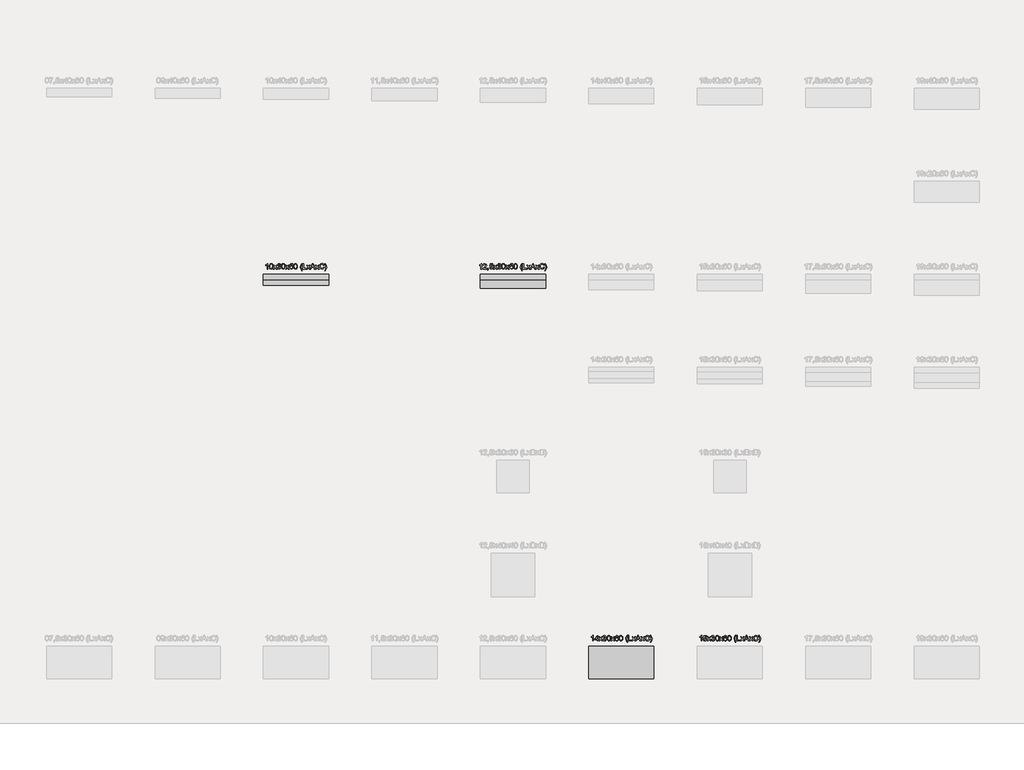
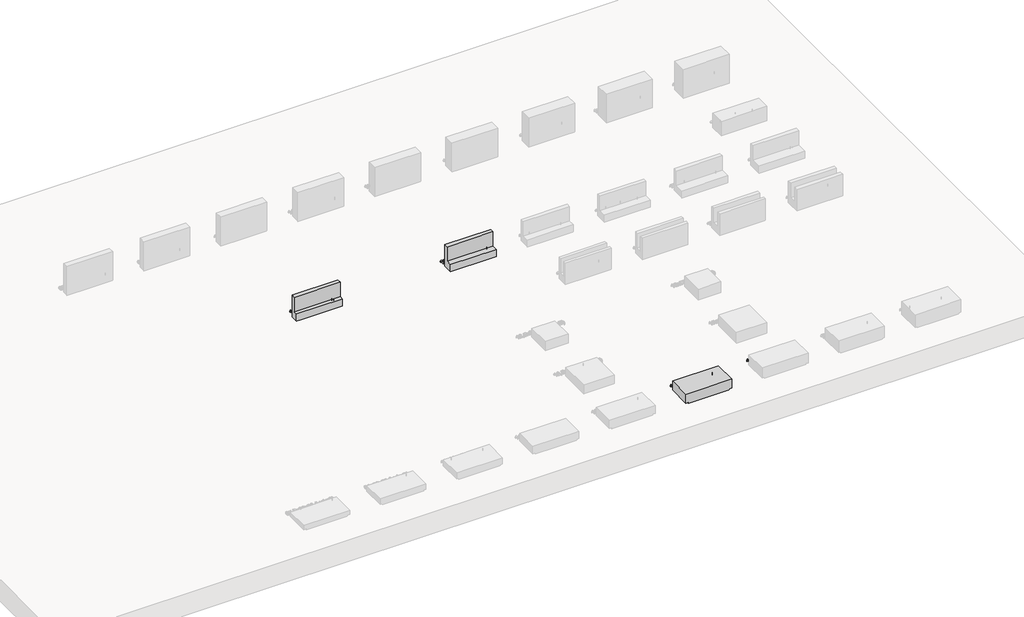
# One storey, part 6 of 26: 7 proxies.
"""IFC4 building model written with IfcOpenShell, lengths in millimetres."""

import ifcopenshell
import ifcopenshell.guid

model = None  # the IFC model being written
_history = None  # IfcOwnerHistory: only IFC2X3 demands one
_inside = {}  # id of a spatial element -> (the spatial element, [elements in it])
_under = {}  # id of a project, library or spatial element -> (it, [spatial elements below it])
_declared = {}  # id of a project -> (the project, [libraries it declares])
_typed = {}  # id of a type object -> (the type object, [elements of that type])
_made_of = {}  # id of a material, layer set ... -> (it, [elements and type objects made of it])


def new_model(schema):
    """Start an empty IFC model of exactly this schema.

    Asked for "IFC4X3", IfcOpenShell would pick the latest addendum, in which some entities
    have other attributes; the version numbers below select the first issue.
    IFC2X3 requires an IfcOwnerHistory on every rooted entity: one is made here for all.
    """
    global model, _history
    if schema == "IFC4X3":
        model = ifcopenshell.file(schema_version=(4, 3, 0, 0))
    else:
        model = ifcopenshell.file(schema=schema)
    _inside.clear()
    _under.clear()
    _declared.clear()
    _typed.clear()
    _made_of.clear()
    _history = None
    if model.schema == "IFC2X3":
        org = make("IfcOrganization", Name="unknown")
        user = make(
            "IfcPersonAndOrganization",
            ThePerson=make("IfcPerson", FamilyName="unknown"),
            TheOrganization=org,
        )
        app = make(
            "IfcApplication",
            ApplicationDeveloper=org,
            Version="unknown",
            ApplicationFullName="unknown",
            ApplicationIdentifier="unknown",
        )
        _history = make(
            "IfcOwnerHistory",
            OwningUser=user,
            OwningApplication=app,
            ChangeAction="ADDED",
            CreationDate=0,
        )
    return model


def make(cls, **values):
    """One entity of the class cls with the attributes given. An attribute that is None is left unset."""
    return model.create_entity(
        cls, **{name: value for name, value in values.items() if value is not None}
    )


def rooted(cls, **values):
    """An entity with a GlobalId (a new one), such as an element, a storey or a relation."""
    return make(cls, GlobalId=ifcopenshell.guid.new(), OwnerHistory=_history, **values)


def si_unit(unit_type, name, prefix=None):
    """IfcSIUnit, for example si_unit("LENGTHUNIT", "METRE", prefix="MILLI")."""
    return make("IfcSIUnit", UnitType=unit_type, Prefix=prefix, Name=name)


def assignment(units):
    """IfcUnitAssignment: the units of a project."""
    return None if units is None else make("IfcUnitAssignment", Units=units)


def point(xyz):
    """IfcCartesianPoint."""
    return None if xyz is None else make("IfcCartesianPoint", Coordinates=xyz)


def direction(xyz):
    """IfcDirection."""
    return None if xyz is None else make("IfcDirection", DirectionRatios=xyz)


def frame(location, z_axis=None, x_axis=None):
    """IfcAxis2Placement3D, a coordinate frame: its origin and axes. An axis left out is left unset."""
    return make(
        "IfcAxis2Placement3D",
        Location=point(location),
        Axis=direction(z_axis),
        RefDirection=direction(x_axis),
    )


def origin():
    """The frame at (0, 0, 0) with its axes left unset."""
    return frame((0.0, 0.0, 0.0))


def origin_with_axes():
    """The frame at (0, 0, 0) with the z axis (0, 0, 1) and the x axis (1, 0, 0) written out."""
    return frame((0.0, 0.0, 0.0), z_axis=(0.0, 0.0, 1.0), x_axis=(1.0, 0.0, 0.0))


def place(relative_to, where):
    """IfcLocalPlacement: puts the frame where relative to a parent placement (None: the world)."""
    return make(
        "IfcLocalPlacement", PlacementRelTo=relative_to, RelativePlacement=where
    )


def context(
    kind, dimensions, precision=None, world=None, true_north=None, identifier=None
):
    """IfcGeometricRepresentationContext, for example the 3D "Model" context."""
    return make(
        "IfcGeometricRepresentationContext",
        ContextIdentifier=identifier,
        ContextType=kind,
        CoordinateSpaceDimension=dimensions,
        Precision=precision,
        WorldCoordinateSystem=world,
        TrueNorth=true_north,
    )


def project(units=None, contexts=None):
    """IfcProject with its units and contexts."""
    return rooted(
        "IfcProject",
        Name="project",
        RepresentationContexts=contexts,
        UnitsInContext=assignment(units),
    )


def spatial(cls, under=None, at=None, **own):
    """A site, building, storey or space (cls), placed at a placement, below another one or the project."""
    s = rooted(cls, ObjectPlacement=at, **own)
    if under is not None:
        _under.setdefault(under.id(), (under, []))[1].append(s)
    return s


def polyline(points):
    """IfcPolyline through the points."""
    return make("IfcPolyline", Points=[point(p) for p in points])


def outline(outer, holes=None, kind="AREA"):
    """IfcArbitraryClosedProfileDef: a profile drawn as a closed curve; with holes, ...WithVoids."""
    if holes is None:
        return make("IfcArbitraryClosedProfileDef", ProfileType=kind, OuterCurve=outer)
    return make(
        "IfcArbitraryProfileDefWithVoids",
        ProfileType=kind,
        OuterCurve=outer,
        InnerCurves=holes,
    )


def extrude(swept, where, along, depth):
    """IfcExtrudedAreaSolid: the profile swept, set in the frame where, extruded along a direction by depth."""
    return make(
        "IfcExtrudedAreaSolid",
        SweptArea=swept,
        Position=where,
        ExtrudedDirection=direction(along),
        Depth=depth,
    )


def shape(context_of_items, identifier, shape_type, items):
    """IfcShapeRepresentation: the items that make up one representation, for example the "Body"."""
    return make(
        "IfcShapeRepresentation",
        ContextOfItems=context_of_items,
        RepresentationIdentifier=identifier,
        RepresentationType=shape_type,
        Items=items,
    )


def source(mapping_origin, context_of_items, identifier, shape_type, items):
    """IfcRepresentationMap: a shape defined once, which mapped items show again and again."""
    return make(
        "IfcRepresentationMap",
        MappingOrigin=mapping_origin,
        MappedRepresentation=shape(context_of_items, identifier, shape_type, items),
    )


def transform(
    local_origin,
    x_axis=None,
    y_axis=None,
    z_axis=None,
    scale=None,
    scale2=None,
    scale3=None,
    uniform=True,
):
    """IfcCartesianTransformationOperator3D, or its non-uniform kind. x_axis, y_axis, z_axis: its Axis1, 2, 3."""
    if uniform:
        return make(
            "IfcCartesianTransformationOperator3D",
            Axis1=direction(x_axis),
            Axis2=direction(y_axis),
            LocalOrigin=point(local_origin),
            Scale=scale,
            Axis3=direction(z_axis),
        )
    return make(
        "IfcCartesianTransformationOperator3DnonUniform",
        Axis1=direction(x_axis),
        Axis2=direction(y_axis),
        LocalOrigin=point(local_origin),
        Scale=scale,
        Axis3=direction(z_axis),
        Scale2=scale2,
        Scale3=scale3,
    )


def mapped(mapping_source, mapping_target):
    """IfcMappedItem: shows the shape of a source again, moved by a transform."""
    return make(
        "IfcMappedItem", MappingSource=mapping_source, MappingTarget=mapping_target
    )


def made_of(thing, what):
    """Note that an element or type object is made of a material, layer set ...; save() writes the relation."""
    if what is not None:
        _made_of.setdefault(what.id(), (what, []))[1].append(thing)
    return thing


def element(
    cls,
    number,
    at=None,
    inside=None,
    cuts=None,
    type_object=None,
    material=None,
    context=None,
    identifier="Body",
    shape_type=None,
    held_by="IfcProductDefinitionShape",
    body=None,
    shapes=None,
    **own,
):
    """One element of the class cls, such as IfcWall. Its Tag is "e" and its number.

    at: its placement. inside: the storey or other place that contains it. cuts: it is an
    opening in that element (IfcRelVoidsElement). A single representation is given by context,
    identifier, shape_type and body (its items); several are given by shapes. held_by: the class
    of the entity that holds the representations. save() writes the other relations.
    """
    e = rooted(cls, Tag="e%d" % number, ObjectPlacement=at, **own)
    if body is not None:
        shapes = [shape(context, identifier, shape_type, body)]
    if shapes is not None:
        e.Representation = make(held_by, Representations=shapes)
    if inside is not None:
        _inside.setdefault(inside.id(), (inside, []))[1].append(e)
    if cuts is not None:
        rooted(
            "IfcRelVoidsElement", RelatingBuildingElement=cuts, RelatedOpeningElement=e
        )
    if type_object is not None:
        _typed.setdefault(type_object.id(), (type_object, []))[1].append(e)
    return made_of(e, material)


def aggregate(whole, parts):
    """IfcRelAggregates: a whole, such as a stair, and the parts it consists of."""
    return rooted("IfcRelAggregates", RelatingObject=whole, RelatedObjects=parts)


def save(model, path):
    """Write the relations noted so far, then the file.

    IfcRelAggregates (storeys below a building ...), IfcRelContainedInSpatialStructure (elements
    in a storey), IfcRelDefinesByType, IfcRelAssociatesMaterial and IfcRelDeclares: one each for
    every whole, place, type object, material and project.
    """
    for whole, parts in _under.values():
        aggregate(whole, parts)
    for where, things in _inside.values():
        rooted(
            "IfcRelContainedInSpatialStructure",
            RelatedElements=things,
            RelatingStructure=where,
        )
    for kind, things in _typed.values():
        rooted("IfcRelDefinesByType", RelatedObjects=things, RelatingType=kind)
    for what, things in _made_of.values():
        rooted("IfcRelAssociatesMaterial", RelatedObjects=things, RelatingMaterial=what)
    for by, libraries in _declared.values():
        rooted("IfcRelDeclares", RelatingContext=by, RelatedDefinitions=libraries)
    model.write(path)


def generic_models_2dec6f5c(model_context):
    return source(origin(), model_context, "Body", "SweptSolid", [
        extrude(outline(polyline([(62.5, 0.0), (-62.5, 0.0), (-62.5, 100.0), (12.5, 100.0), (12.5, 300.0), (62.5, 300.0), (62.5, 0.0)])), frame((-300.0, 0.0, 0.0), z_axis=(1.0, 0.0, 0.0), x_axis=(0.0, 1.0, 0.0)), (0.0, 0.0, 1.0), 600.0),
    ])


def generic_models_cf0e5051(model_context):
    return source(origin(), model_context, "Body", "SweptSolid", [
        extrude(outline(polyline([(50.0, 0.0), (-50.0, 0.0), (-50.0, 100.0), (0.0, 100.0), (0.0, 300.0), (50.0, 300.0), (50.0, 0.0)])), frame((-300.0, 0.0, 0.0), z_axis=(1.0, 0.0, 0.0), x_axis=(0.0, 1.0, 0.0)), (0.0, 0.0, 1.0), 600.0),
    ])


def generic_models_2375c835(model_context):
    return source(origin(), model_context, "Body", "SweptSolid", [
        extrude(outline(polyline([(140.0, 300.0), (140.0, -300.0), (15.0, -300.0), (15.0, -270.0), (0.0, -270.0), (0.0, 270.0), (15.0, 270.0), (15.0, 300.0), (140.0, 300.0)])), frame((0.0, -150.0, 0.0), z_axis=(0.0, 1.0, 0.0), x_axis=(0.0, 0.0, 1.0)), (0.0, 0.0, 1.0), 300.0),
    ])


model = new_model("IFC4")

# Units and contexts
model_context = context("Model", 3, world=origin())
ifc_project = project(units=[si_unit("LENGTHUNIT", "METRE", prefix="MILLI")], contexts=[model_context])

# Site, building, storey
site = spatial("IfcSite", under=ifc_project)
building = spatial("IfcBuilding", under=site)
storey = spatial("IfcBuildingStorey", under=building, Name="Catálogo Celucon", Elevation=0.0)

# Proxies
placement = place(None, origin())
element("IfcBuildingElementProxy", 1, Name="Dimensões", ObjectType="Dimensões", at=placement, inside=storey, context=model_context, shape_type="SweptSolid", body=[
    extrude(outline(polyline([(-10758.0265226, -1171.1045836), (-10764.305042, -1171.1045836), (-10764.305042, -1131.9619393), (-10770.2524676, -1136.1987136), (-10776.8620808, -1139.3686301), (-10776.8620808, -1133.4334673), (-10767.6588995, -1127.5596181), (-10762.0732246, -1120.8764285), (-10758.0265226, -1120.8764285), (-10758.0265226, -1171.1045836)])), origin_with_axes(), (0.0, 0.0, 1.0), 20.0),
    extrude(outline(polyline([(-10743.1150391, -1146.3951763), (-10741.2694977, -1131.9435452), (-10735.788056, -1123.611018), (-10726.6339257, -1120.8764285), (-10719.3008113, -1122.4951093), (-10714.2363025, -1127.1610793), (-10711.2932465, -1134.5922956), (-10710.1528123, -1146.3951763), (-10711.9799596, -1160.7854936), (-10717.4430072, -1169.1364149), (-10726.6339257, -1171.8893985), (-10738.1118439, -1167.1069326), (-10741.8642403, -1158.6119242), (-10743.1150391, -1146.3951763)]), holes=[polyline([(-10736.8365197, -1146.3829135), (-10733.8934637, -1161.9749788), (-10726.6339257, -1165.6108791), (-10719.3743877, -1161.962716), (-10716.4313317, -1146.3829135), (-10719.2762858, -1130.9686579), (-10726.7075021, -1127.1549479), (-10733.7953619, -1130.5149368), (-10736.8365197, -1146.3829135)])]), origin_with_axes(), (0.0, 0.0, 1.0), 20.0),
    extrude(outline(polyline([(-10707.0135526, -1171.1045836), (-10693.5981225, -1152.563331), (-10706.2287377, -1134.2182822), (-10698.6748941, -1134.2182822), (-10692.5803157, -1143.0474501), (-10689.7353616, -1147.2167794), (-10687.2705522, -1143.8077396), (-10680.3298452, -1134.2182822), (-10672.7760016, -1134.2182822), (-10686.0442789, -1152.563331), (-10673.2665109, -1171.1045836), (-10680.8203546, -1171.1045836), (-10688.5090883, -1159.9577591), (-10689.9193026, -1157.9221454), (-10699.459709, -1171.1045836), (-10707.0135526, -1171.1045836)])), origin_with_axes(), (0.0, 0.0, 1.0), 20.0),
    extrude(outline(polyline([(-10669.3424363, -1157.7627299), (-10663.0639169, -1156.977915), (-10659.5996948, -1163.5875282), (-10653.1188403, -1165.6108791), (-10645.4914203, -1162.8272387), (-10642.6587289, -1155.9355827), (-10645.4668948, -1149.4424654), (-10652.6038055, -1146.8734228), (-10657.0061267, -1147.5601359), (-10656.3071509, -1141.2816165), (-10648.1769589, -1139.5525711), (-10645.0131737, -1134.0098158), (-10647.3063048, -1129.0985911), (-10653.2169422, -1127.1549479), (-10659.201156, -1129.1169852), (-10662.279102, -1135.0030971), (-10668.5576214, -1134.2182822), (-10663.4195362, -1124.3713075), (-10653.4376714, -1120.8764285), (-10645.8654337, -1122.5993425), (-10640.5679329, -1127.3082321), (-10638.7346543, -1133.6419338), (-10640.4759624, -1139.4299438), (-10645.6263104, -1143.5870104), (-10638.7837052, -1147.878967), (-10636.3802095, -1156.0459473), (-10641.1872009, -1167.2786108), (-10653.3395695, -1171.8893985), (-10664.3515039, -1167.9530612), (-10669.3424363, -1157.7627299)])), origin_with_axes(), (0.0, 0.0, 1.0), 20.0),
    extrude(outline(polyline([(-10630.8865051, -1146.3951763), (-10629.0409637, -1131.9435452), (-10623.559522, -1123.611018), (-10614.4053917, -1120.8764285), (-10607.0722773, -1122.4951093), (-10602.0077685, -1127.1610793), (-10599.0647125, -1134.5922956), (-10597.9242783, -1146.3951763), (-10599.7514256, -1160.7854936), (-10605.2144732, -1169.1364149), (-10614.4053917, -1171.8893985), (-10625.8833099, -1167.1069326), (-10629.6357063, -1158.6119242), (-10630.8865051, -1146.3951763)]), holes=[polyline([(-10624.6079857, -1146.3829135), (-10621.6649297, -1161.9749788), (-10614.4053917, -1165.6108791), (-10607.1458537, -1161.962716), (-10604.2027977, -1146.3829135), (-10607.0477518, -1130.9686579), (-10614.4789681, -1127.1549479), (-10621.5668279, -1130.5149368), (-10624.6079857, -1146.3829135)])]), origin_with_axes(), (0.0, 0.0, 1.0), 20.0),
    extrude(outline(polyline([(-10594.7850186, -1171.1045836), (-10581.3695885, -1152.563331), (-10594.0002037, -1134.2182822), (-10586.4463601, -1134.2182822), (-10580.3517817, -1143.0474501), (-10577.5068276, -1147.2167794), (-10575.0420182, -1143.8077396), (-10568.1013112, -1134.2182822), (-10560.5474676, -1134.2182822), (-10573.8157449, -1152.563331), (-10561.0379769, -1171.1045836), (-10568.5918206, -1171.1045836), (-10576.2805543, -1159.9577591), (-10577.6907686, -1157.9221454), (-10587.231175, -1171.1045836), (-10594.7850186, -1171.1045836)])), origin_with_axes(), (0.0, 0.0, 1.0), 20.0),
    extrude(outline(polyline([(-10524.9364905, -1134.2182822), (-10531.2150099, -1135.0030971), (-10533.5939801, -1129.7669101), (-10539.8847622, -1127.1549479), (-10545.5501449, -1128.6755268), (-10549.8359702, -1134.3838291), (-10551.6201979, -1145.5735731), (-10546.0835738, -1140.5642466), (-10539.2225746, -1138.9271718), (-10528.5539968, -1143.4030694), (-10524.1516755, -1154.9668267), (-10526.2240775, -1163.6304477), (-10531.9262484, -1169.7618143), (-10540.1545423, -1171.8893985), (-10552.9507044, -1166.2485413), (-10556.661714, -1158.7805368), (-10557.8987172, -1147.6582378), (-10556.5252911, -1135.1533156), (-10552.4050128, -1126.6031249), (-10546.7794839, -1122.3081026), (-10539.4923547, -1120.8764285), (-10529.5718036, -1124.4203584), (-10524.9364905, -1134.2182822)]), holes=[polyline([(-10551.6201979, -1154.8687249), (-10550.167064, -1160.307247), (-10546.304303, -1164.2558471), (-10540.6450517, -1165.6108791), (-10533.2444922, -1162.8027132), (-10530.4301949, -1155.1752932), (-10533.207704, -1147.8728356), (-10540.9025691, -1145.2056911), (-10548.4993323, -1147.8728356), (-10551.6201979, -1154.8687249)])]), origin_with_axes(), (0.0, 0.0, 1.0), 20.0),
    extrude(outline(polyline([(-10518.6579711, -1146.3951763), (-10516.8124297, -1131.9435452), (-10511.330988, -1123.611018), (-10502.1768577, -1120.8764285), (-10494.8437433, -1122.4951093), (-10489.7792345, -1127.1610793), (-10486.8361785, -1134.5922956), (-10485.6957443, -1146.3951763), (-10487.5228916, -1160.7854936), (-10492.9859392, -1169.1364149), (-10502.1768577, -1171.8893985), (-10513.654776, -1167.1069326), (-10517.4071723, -1158.6119242), (-10518.6579711, -1146.3951763)]), holes=[polyline([(-10512.3794517, -1146.3829135), (-10509.4363957, -1161.9749788), (-10502.1768577, -1165.6108791), (-10494.9173197, -1161.962716), (-10491.9742637, -1146.3829135), (-10494.8192178, -1130.9686579), (-10502.2504341, -1127.1549479), (-10509.3382939, -1130.5149368), (-10512.3794517, -1146.3829135)])]), origin_with_axes(), (0.0, 0.0, 1.0), 20.0),
    extrude(outline(polyline([(-10446.4549982, -1185.2312522), (-10455.3700052, -1170.5037097), (-10459.0120369, -1153.0170522), (-10456.2897102, -1137.7499494), (-10446.4549982, -1120.8764285), (-10441.7461086, -1120.8764285), (-10447.6199578, -1130.8215051), (-10451.151625, -1140.4600134), (-10452.7335176, -1153.0538404), (-10449.9866653, -1169.1486777), (-10441.7461086, -1185.2312522), (-10446.4549982, -1185.2312522)])), origin_with_axes(), (0.0, 0.0, 1.0), 20.0),
    extrude(outline(polyline([(-10434.6827743, -1171.1045836), (-10434.6827743, -1120.8764285), (-10428.4042549, -1120.8764285), (-10428.4042549, -1164.8260642), (-10403.2901774, -1164.8260642), (-10403.2901774, -1171.1045836), (-10434.6827743, -1171.1045836)])), origin_with_axes(), (0.0, 0.0, 1.0), 20.0),
    extrude(outline(polyline([(-10366.7594953, -1171.1045836), (-10346.7099265, -1120.8764285), (-10341.3633749, -1120.8764285), (-10321.3138061, -1171.1045836), (-10327.9479448, -1171.1045836), (-10333.6991666, -1155.4082851), (-10354.3863975, -1155.4082851), (-10360.1253566, -1171.1045836), (-10366.7594953, -1171.1045836)]), holes=[polyline([(-10352.0810037, -1149.1297658), (-10335.9922977, -1149.1297658), (-10340.5172463, -1136.7811934), (-10344.0366507, -1127.1549479), (-10347.1636477, -1135.7020729), (-10352.0810037, -1149.1297658)])]), origin_with_axes(), (0.0, 0.0, 1.0), 20.0),
    extrude(outline(polyline([(-10400.9357326, -1171.1045836), (-10387.5203025, -1152.563331), (-10400.1509177, -1134.2182822), (-10392.5970741, -1134.2182822), (-10386.5024957, -1143.0474501), (-10383.6575416, -1147.2167794), (-10381.1927322, -1143.8077396), (-10374.2520252, -1134.2182822), (-10366.6981816, -1134.2182822), (-10379.9664589, -1152.563331), (-10367.1886909, -1171.1045836), (-10374.7425346, -1171.1045836), (-10382.4312683, -1159.9577591), (-10383.8414826, -1157.9221454), (-10393.381889, -1171.1045836), (-10400.9357326, -1171.1045836)])), origin_with_axes(), (0.0, 0.0, 1.0), 20.0),
    extrude(outline(polyline([(-10319.3149806, -1171.1045836), (-10305.8995505, -1152.563331), (-10318.5301657, -1134.2182822), (-10310.9763221, -1134.2182822), (-10304.8817437, -1143.0474501), (-10302.0367896, -1147.2167794), (-10299.5719802, -1143.8077396), (-10292.6312733, -1134.2182822), (-10285.0774296, -1134.2182822), (-10298.3457069, -1152.563331), (-10285.5679389, -1171.1045836), (-10293.1217826, -1171.1045836), (-10300.8105163, -1159.9577591), (-10302.2207306, -1157.9221454), (-10311.761137, -1171.1045836), (-10319.3149806, -1171.1045836)])), origin_with_axes(), (0.0, 0.0, 1.0), 20.0),
    extrude(outline(polyline([(-10243.972748, -1153.2500441), (-10237.6942286, -1154.8687249), (-10245.1377077, -1167.5299969), (-10258.2833576, -1171.8893985), (-10271.3492998, -1168.5907233), (-10279.0135081, -1159.0380542), (-10281.6438643, -1145.6103613), (-10278.6701515, -1131.9619393), (-10270.214997, -1123.1143773), (-10258.1484676, -1120.0916136), (-10245.5730347, -1124.0034255), (-10238.4790436, -1135.0153599), (-10244.7575629, -1136.5114133), (-10249.9079109, -1128.7920228), (-10258.3937222, -1126.370133), (-10268.2161715, -1129.0556715), (-10273.7650583, -1136.2661587), (-10275.3653449, -1145.5980986), (-10273.4707527, -1156.4138293), (-10267.572378, -1163.3238794), (-10258.908757, -1165.6108791), (-10249.3009056, -1162.4961449), (-10243.972748, -1153.2500441)])), origin_with_axes(), (0.0, 0.0, 1.0), 20.0),
    extrude(outline(polyline([(-10228.2764496, -1185.2312522), (-10232.9853391, -1185.2312522), (-10224.7447824, -1169.1486777), (-10221.9979302, -1153.0538404), (-10223.5798228, -1140.570378), (-10227.0747017, -1130.919607), (-10232.9853391, -1120.8764285), (-10228.2764496, -1120.8764285), (-10218.4417376, -1137.7499494), (-10215.7194108, -1153.0170522), (-10219.3798366, -1170.5037097), (-10228.2764496, -1185.2312522)])), origin_with_axes(), (0.0, 0.0, 1.0), 20.0),
])
element("IfcBuildingElementProxy", 2, Name="Dimensões", ObjectType="Dimensões", at=placement, inside=storey, context=model_context, shape_type="SweptSolid", body=[
    extrude(outline(polyline([(-8787.0646748, -1171.1045836), (-8793.3431942, -1171.1045836), (-8793.3431942, -1131.9619393), (-8799.2906197, -1136.1987136), (-8805.9002329, -1139.3686301), (-8805.9002329, -1133.4334673), (-8796.6970517, -1127.5596181), (-8791.1113767, -1120.8764285), (-8787.0646748, -1120.8764285), (-8787.0646748, -1171.1045836)])), origin_with_axes(), (0.0, 0.0, 1.0), 20.0),
    extrude(outline(polyline([(-8739.9757794, -1164.8260642), (-8739.9757794, -1171.1045836), (-8772.9380062, -1171.1045836), (-8772.2635558, -1166.7758388), (-8768.4498458, -1160.1110433), (-8760.5894338, -1152.8331112), (-8749.7491777, -1142.3729998), (-8747.0391137, -1135.2606145), (-8749.5958936, -1129.5032613), (-8756.2729518, -1127.1549479), (-8763.2320528, -1129.448079), (-8765.8746718, -1135.7879121), (-8772.1531912, -1135.0030971), (-8767.3400685, -1124.4939348), (-8756.1380617, -1120.8764285), (-8744.8992668, -1124.898605), (-8740.7605943, -1134.8804698), (-8741.876503, -1140.8340268), (-8745.5859798, -1146.9899188), (-8754.5806946, -1155.5922261), (-8761.8034444, -1161.6316222), (-8764.6361358, -1164.8260642), (-8739.9757794, -1164.8260642)])), origin_with_axes(), (0.0, 0.0, 1.0), 20.0),
    extrude(outline(polyline([(-8730.5580003, -1171.1045836), (-8730.5580003, -1164.8260642), (-8724.2794809, -1164.8260642), (-8724.2794809, -1171.1045836), (-8725.4076524, -1177.5241244), (-8728.9883705, -1181.3071776), (-8730.5580003, -1178.9527328), (-8728.2526065, -1176.2426688), (-8727.4310034, -1171.1045836), (-8730.5580003, -1171.1045836)])), origin_with_axes(), (0.0, 0.0, 1.0), 20.0),
    extrude(outline(polyline([(-8714.0768869, -1157.7627299), (-8707.7983675, -1156.977915), (-8704.6345824, -1163.4465067), (-8698.0740201, -1165.6108791), (-8690.2013454, -1162.6003781), (-8687.3931795, -1154.6112075), (-8690.0235358, -1147.1554657), (-8697.9759183, -1144.4208762), (-8703.4880168, -1145.5122595), (-8707.0135526, -1148.3449508), (-8713.292072, -1147.5601359), (-8707.7983675, -1121.6612434), (-8683.4691049, -1121.6612434), (-8683.4691049, -1127.9397628), (-8702.721596, -1127.9397628), (-8705.4071346, -1141.7721258), (-8696.2223474, -1138.1423568), (-8685.4863245, -1142.6427799), (-8681.1146602, -1154.2188), (-8685.0509975, -1165.8683965), (-8690.7041175, -1170.384148), (-8698.0985456, -1171.8893985), (-8709.177925, -1168.0205062), (-8714.0768869, -1157.7627299)])), origin_with_axes(), (0.0, 0.0, 1.0), 20.0),
    extrude(outline(polyline([(-8677.9754005, -1171.1045836), (-8664.5599704, -1152.563331), (-8677.1905855, -1134.2182822), (-8669.6367419, -1134.2182822), (-8663.5421635, -1143.0474501), (-8660.6972094, -1147.2167794), (-8658.2324001, -1143.8077396), (-8651.2916931, -1134.2182822), (-8643.7378494, -1134.2182822), (-8657.0061267, -1152.563331), (-8644.2283588, -1171.1045836), (-8651.7822024, -1171.1045836), (-8659.4709361, -1159.9577591), (-8660.8811504, -1157.9221454), (-8670.4215568, -1171.1045836), (-8677.9754005, -1171.1045836)])), origin_with_axes(), (0.0, 0.0, 1.0), 20.0),
    extrude(outline(polyline([(-8640.3042842, -1157.7627299), (-8634.0257648, -1156.977915), (-8630.5615427, -1163.5875282), (-8624.0806882, -1165.6108791), (-8616.4532681, -1162.8272387), (-8613.6205768, -1155.9355827), (-8616.4287427, -1149.4424654), (-8623.5656534, -1146.8734228), (-8627.9679746, -1147.5601359), (-8627.2689988, -1141.2816165), (-8619.1388067, -1139.5525711), (-8615.9750215, -1134.0098158), (-8618.2681526, -1129.0985911), (-8624.17879, -1127.1549479), (-8630.1630038, -1129.1169852), (-8633.2409499, -1135.0030971), (-8639.5194692, -1134.2182822), (-8634.381384, -1124.3713075), (-8624.3995192, -1120.8764285), (-8616.8272815, -1122.5993425), (-8611.5297808, -1127.3082321), (-8609.6965022, -1133.6419338), (-8611.4378103, -1139.4299438), (-8616.5881582, -1143.5870104), (-8609.7455531, -1147.878967), (-8607.3420574, -1156.0459473), (-8612.1490488, -1167.2786108), (-8624.3014174, -1171.8893985), (-8635.3133518, -1167.9530612), (-8640.3042842, -1157.7627299)])), origin_with_axes(), (0.0, 0.0, 1.0), 20.0),
    extrude(outline(polyline([(-8601.8483529, -1146.3951763), (-8600.0028116, -1131.9435452), (-8594.5213699, -1123.611018), (-8585.3672395, -1120.8764285), (-8578.0341251, -1122.4951093), (-8572.9696163, -1127.1610793), (-8570.0265603, -1134.5922956), (-8568.8861262, -1146.3951763), (-8570.7132734, -1160.7854936), (-8576.176321, -1169.1364149), (-8585.3672395, -1171.8893985), (-8596.8451578, -1167.1069326), (-8600.5975541, -1158.6119242), (-8601.8483529, -1146.3951763)]), holes=[polyline([(-8595.5698335, -1146.3829135), (-8592.6267776, -1161.9749788), (-8585.3672395, -1165.6108791), (-8578.1077015, -1161.962716), (-8575.1646455, -1146.3829135), (-8578.0095996, -1130.9686579), (-8585.4408159, -1127.1549479), (-8592.5286757, -1130.5149368), (-8595.5698335, -1146.3829135)])]), origin_with_axes(), (0.0, 0.0, 1.0), 20.0),
    extrude(outline(polyline([(-8565.7468665, -1171.1045836), (-8552.3314364, -1152.563331), (-8564.9620515, -1134.2182822), (-8557.4082079, -1134.2182822), (-8551.3136295, -1143.0474501), (-8548.4686754, -1147.2167794), (-8546.0038661, -1143.8077396), (-8539.0631591, -1134.2182822), (-8531.5093155, -1134.2182822), (-8544.7775927, -1152.563331), (-8531.9998248, -1171.1045836), (-8539.5536684, -1171.1045836), (-8547.2424021, -1159.9577591), (-8548.6526164, -1157.9221454), (-8558.1930228, -1171.1045836), (-8565.7468665, -1171.1045836)])), origin_with_axes(), (0.0, 0.0, 1.0), 20.0),
    extrude(outline(polyline([(-8495.8983383, -1134.2182822), (-8502.1768577, -1135.0030971), (-8504.5558279, -1129.7669101), (-8510.8466101, -1127.1549479), (-8516.5119928, -1128.6755268), (-8520.797818, -1134.3838291), (-8522.5820457, -1145.5735731), (-8517.0454217, -1140.5642466), (-8510.1844225, -1138.9271718), (-8499.5158446, -1143.4030694), (-8495.1135234, -1154.9668267), (-8497.1859253, -1163.6304477), (-8502.8880962, -1169.7618143), (-8511.1163902, -1171.8893985), (-8523.9125523, -1166.2485413), (-8527.6235619, -1158.7805368), (-8528.8605651, -1147.6582378), (-8527.487139, -1135.1533156), (-8523.3668606, -1126.6031249), (-8517.7413318, -1122.3081026), (-8510.4542026, -1120.8764285), (-8500.5336515, -1124.4203584), (-8495.8983383, -1134.2182822)]), holes=[polyline([(-8522.5820457, -1154.8687249), (-8521.1289118, -1160.307247), (-8517.2661509, -1164.2558471), (-8511.6068995, -1165.6108791), (-8504.20634, -1162.8027132), (-8501.3920428, -1155.1752932), (-8504.1695518, -1147.8728356), (-8511.8644169, -1145.2056911), (-8519.4611801, -1147.8728356), (-8522.5820457, -1154.8687249)])]), origin_with_axes(), (0.0, 0.0, 1.0), 20.0),
    extrude(outline(polyline([(-8489.6198189, -1146.3951763), (-8487.7742776, -1131.9435452), (-8482.2928359, -1123.611018), (-8473.1387056, -1120.8764285), (-8465.8055911, -1122.4951093), (-8460.7410823, -1127.1610793), (-8457.7980264, -1134.5922956), (-8456.6575922, -1146.3951763), (-8458.4847394, -1160.7854936), (-8463.947787, -1169.1364149), (-8473.1387056, -1171.8893985), (-8484.6166238, -1167.1069326), (-8488.3690202, -1158.6119242), (-8489.6198189, -1146.3951763)]), holes=[polyline([(-8483.3412996, -1146.3829135), (-8480.3982436, -1161.9749788), (-8473.1387056, -1165.6108791), (-8465.8791675, -1161.962716), (-8462.9361116, -1146.3829135), (-8465.7810656, -1130.9686579), (-8473.212282, -1127.1549479), (-8480.3001417, -1130.5149368), (-8483.3412996, -1146.3829135)])]), origin_with_axes(), (0.0, 0.0, 1.0), 20.0),
    extrude(outline(polyline([(-8417.416846, -1185.2312522), (-8426.331853, -1170.5037097), (-8429.9738848, -1153.0170522), (-8427.251558, -1137.7499494), (-8417.416846, -1120.8764285), (-8412.7079565, -1120.8764285), (-8418.5818057, -1130.8215051), (-8422.1134728, -1140.4600134), (-8423.6953654, -1153.0538404), (-8420.9485132, -1169.1486777), (-8412.7079565, -1185.2312522), (-8417.416846, -1185.2312522)])), origin_with_axes(), (0.0, 0.0, 1.0), 20.0),
    extrude(outline(polyline([(-8405.6446222, -1171.1045836), (-8405.6446222, -1120.8764285), (-8399.3661028, -1120.8764285), (-8399.3661028, -1164.8260642), (-8374.2520252, -1164.8260642), (-8374.2520252, -1171.1045836), (-8405.6446222, -1171.1045836)])), origin_with_axes(), (0.0, 0.0, 1.0), 20.0),
    extrude(outline(polyline([(-8337.7213431, -1171.1045836), (-8317.6717744, -1120.8764285), (-8312.3252227, -1120.8764285), (-8292.275654, -1171.1045836), (-8298.9097926, -1171.1045836), (-8304.6610145, -1155.4082851), (-8325.3482454, -1155.4082851), (-8331.0872045, -1171.1045836), (-8337.7213431, -1171.1045836)]), holes=[polyline([(-8323.0428515, -1149.1297658), (-8306.9541456, -1149.1297658), (-8311.4790941, -1136.7811934), (-8314.9984986, -1127.1549479), (-8318.1254955, -1135.7020729), (-8323.0428515, -1149.1297658)])]), origin_with_axes(), (0.0, 0.0, 1.0), 20.0),
    extrude(outline(polyline([(-8371.8975805, -1171.1045836), (-8358.4821504, -1152.563331), (-8371.1127656, -1134.2182822), (-8363.5589219, -1134.2182822), (-8357.4643435, -1143.0474501), (-8354.6193894, -1147.2167794), (-8352.1545801, -1143.8077396), (-8345.2138731, -1134.2182822), (-8337.6600295, -1134.2182822), (-8350.9283068, -1152.563331), (-8338.1505388, -1171.1045836), (-8345.7043824, -1171.1045836), (-8353.3931161, -1159.9577591), (-8354.8033304, -1157.9221454), (-8364.3437368, -1171.1045836), (-8371.8975805, -1171.1045836)])), origin_with_axes(), (0.0, 0.0, 1.0), 20.0),
    extrude(outline(polyline([(-8290.2768285, -1171.1045836), (-8276.8613984, -1152.563331), (-8289.4920136, -1134.2182822), (-8281.9381699, -1134.2182822), (-8275.8435915, -1143.0474501), (-8272.9986374, -1147.2167794), (-8270.5338281, -1143.8077396), (-8263.5931211, -1134.2182822), (-8256.0392775, -1134.2182822), (-8269.3075548, -1152.563331), (-8256.5297868, -1171.1045836), (-8264.0836304, -1171.1045836), (-8271.7723641, -1159.9577591), (-8273.1825784, -1157.9221454), (-8282.7229848, -1171.1045836), (-8290.2768285, -1171.1045836)])), origin_with_axes(), (0.0, 0.0, 1.0), 20.0),
    extrude(outline(polyline([(-8214.9345959, -1153.2500441), (-8208.6560765, -1154.8687249), (-8216.0995555, -1167.5299969), (-8229.2452055, -1171.8893985), (-8242.3111477, -1168.5907233), (-8249.9753559, -1159.0380542), (-8252.6057122, -1145.6103613), (-8249.6319994, -1131.9619393), (-8241.1768449, -1123.1143773), (-8229.1103154, -1120.0916136), (-8216.5348825, -1124.0034255), (-8209.4408914, -1135.0153599), (-8215.7194108, -1136.5114133), (-8220.8697587, -1128.7920228), (-8229.3555701, -1126.370133), (-8239.1780194, -1129.0556715), (-8244.7269061, -1136.2661587), (-8246.3271928, -1145.5980986), (-8244.4326005, -1156.4138293), (-8238.5342259, -1163.3238794), (-8229.8706049, -1165.6108791), (-8220.2627534, -1162.4961449), (-8214.9345959, -1153.2500441)])), origin_with_axes(), (0.0, 0.0, 1.0), 20.0),
    extrude(outline(polyline([(-8199.2382974, -1185.2312522), (-8203.9471869, -1185.2312522), (-8195.7066303, -1169.1486777), (-8192.959778, -1153.0538404), (-8194.5416706, -1140.570378), (-8198.0365496, -1130.919607), (-8203.9471869, -1120.8764285), (-8199.2382974, -1120.8764285), (-8189.4035854, -1137.7499494), (-8186.6812586, -1153.0170522), (-8190.3416845, -1170.5037097), (-8199.2382974, -1185.2312522)])), origin_with_axes(), (0.0, 0.0, 1.0), 20.0),
])
element("IfcBuildingElementProxy", 3, Name="Dimensões", ObjectType="Dimensões", at=placement, inside=storey, context=model_context, shape_type="SweptSolid", body=[
    extrude(outline(polyline([(-7758.0265226, -4599.6760122), (-7764.305042, -4599.6760122), (-7764.305042, -4560.5333679), (-7770.2524676, -4564.7701422), (-7776.8620808, -4567.9400587), (-7776.8620808, -4562.0048959), (-7767.6588995, -4556.1310467), (-7762.0732246, -4549.4478571), (-7758.0265226, -4549.4478571), (-7758.0265226, -4599.6760122)])), origin_with_axes(), (0.0, 0.0, 1.0), 20.0),
    extrude(outline(polyline([(-7722.7098511, -4599.6760122), (-7722.7098511, -4587.9037883), (-7745.4694838, -4587.9037883), (-7745.4694838, -4581.6252689), (-7721.1402212, -4550.232672), (-7716.4313317, -4550.232672), (-7716.4313317, -4581.6252689), (-7710.1528123, -4581.6252689), (-7710.1528123, -4587.9037883), (-7716.4313317, -4587.9037883), (-7716.4313317, -4599.6760122), (-7722.7098511, -4599.6760122)]), holes=[polyline([(-7722.7098511, -4581.6252689), (-7722.7098511, -4562.2256251), (-7737.7439619, -4581.6252689), (-7722.7098511, -4581.6252689)])]), origin_with_axes(), (0.0, 0.0, 1.0), 20.0),
    extrude(outline(polyline([(-7707.0135526, -4599.6760122), (-7693.5981225, -4581.1347596), (-7706.2287377, -4562.7897108), (-7698.6748941, -4562.7897108), (-7692.5803157, -4571.6188787), (-7689.7353616, -4575.7882079), (-7687.2705522, -4572.3791681), (-7680.3298452, -4562.7897108), (-7672.7760016, -4562.7897108), (-7686.0442789, -4581.1347596), (-7673.2665109, -4599.6760122), (-7680.8203546, -4599.6760122), (-7688.5090883, -4588.5291877), (-7689.9193026, -4586.493574), (-7699.459709, -4599.6760122), (-7707.0135526, -4599.6760122)])), origin_with_axes(), (0.0, 0.0, 1.0), 20.0),
    extrude(outline(polyline([(-7669.3424363, -4586.3341585), (-7663.0639169, -4585.5493436), (-7659.5996948, -4592.1589567), (-7653.1188403, -4594.1823077), (-7645.4914203, -4591.3986673), (-7642.6587289, -4584.5070112), (-7645.4668948, -4578.013894), (-7652.6038055, -4575.4448514), (-7657.0061267, -4576.1315645), (-7656.3071509, -4569.8530451), (-7648.1769589, -4568.1239997), (-7645.0131737, -4562.5812443), (-7647.3063048, -4557.6700197), (-7653.2169422, -4555.7263765), (-7659.201156, -4557.6884138), (-7662.279102, -4563.5745257), (-7668.5576214, -4562.7897108), (-7663.4195362, -4552.942736), (-7653.4376714, -4549.4478571), (-7645.8654337, -4551.1707711), (-7640.5679329, -4555.8796606), (-7638.7346543, -4562.2133623), (-7640.4759624, -4568.0013724), (-7645.6263104, -4572.1584389), (-7638.7837052, -4576.4503955), (-7636.3802095, -4584.6173758), (-7641.1872009, -4595.8500394), (-7653.3395695, -4600.4608271), (-7664.3515039, -4596.5244897), (-7669.3424363, -4586.3341585)])), origin_with_axes(), (0.0, 0.0, 1.0), 20.0),
    extrude(outline(polyline([(-7630.8865051, -4574.9666048), (-7629.0409637, -4560.5149738), (-7623.559522, -4552.1824466), (-7614.4053917, -4549.4478571), (-7607.0722773, -4551.0665379), (-7602.0077685, -4555.7325078), (-7599.0647125, -4563.1637241), (-7597.9242783, -4574.9666048), (-7599.7514256, -4589.3569222), (-7605.2144732, -4597.7078435), (-7614.4053917, -4600.4608271), (-7625.8833099, -4595.6783612), (-7629.6357063, -4587.1833528), (-7630.8865051, -4574.9666048)]), holes=[polyline([(-7624.6079857, -4574.9543421), (-7621.6649297, -4590.5464073), (-7614.4053917, -4594.1823077), (-7607.1458537, -4590.5341446), (-7604.2027977, -4574.9543421), (-7607.0477518, -4559.5400865), (-7614.4789681, -4555.7263765), (-7621.5668279, -4559.0863654), (-7624.6079857, -4574.9543421)])]), origin_with_axes(), (0.0, 0.0, 1.0), 20.0),
    extrude(outline(polyline([(-7594.7850186, -4599.6760122), (-7581.3695885, -4581.1347596), (-7594.0002037, -4562.7897108), (-7586.4463601, -4562.7897108), (-7580.3517817, -4571.6188787), (-7577.5068276, -4575.7882079), (-7575.0420182, -4572.3791681), (-7568.1013112, -4562.7897108), (-7560.5474676, -4562.7897108), (-7573.8157449, -4581.1347596), (-7561.0379769, -4599.6760122), (-7568.5918206, -4599.6760122), (-7576.2805543, -4588.5291877), (-7577.6907686, -4586.493574), (-7587.231175, -4599.6760122), (-7594.7850186, -4599.6760122)])), origin_with_axes(), (0.0, 0.0, 1.0), 20.0),
    extrude(outline(polyline([(-7524.9364905, -4562.7897108), (-7531.2150099, -4563.5745257), (-7533.5939801, -4558.3383386), (-7539.8847622, -4555.7263765), (-7545.5501449, -4557.2469554), (-7549.8359702, -4562.9552577), (-7551.6201979, -4574.1450017), (-7546.0835738, -4569.1356752), (-7539.2225746, -4567.4986003), (-7528.5539968, -4571.9744979), (-7524.1516755, -4583.5382553), (-7526.2240775, -4592.2018763), (-7531.9262484, -4598.3332429), (-7540.1545423, -4600.4608271), (-7552.9507044, -4594.8199698), (-7556.661714, -4587.3519653), (-7557.8987172, -4576.2296663), (-7556.5252911, -4563.7247442), (-7552.4050128, -4555.1745535), (-7546.7794839, -4550.8795312), (-7539.4923547, -4549.4478571), (-7529.5718036, -4552.991787), (-7524.9364905, -4562.7897108)]), holes=[polyline([(-7551.6201979, -4583.4401534), (-7550.167064, -4588.8786756), (-7546.304303, -4592.8272757), (-7540.6450517, -4594.1823077), (-7533.2444922, -4591.3741418), (-7530.4301949, -4583.7467218), (-7533.207704, -4576.4442642), (-7540.9025691, -4573.7771197), (-7548.4993323, -4576.4442642), (-7551.6201979, -4583.4401534)])]), origin_with_axes(), (0.0, 0.0, 1.0), 20.0),
    extrude(outline(polyline([(-7518.6579711, -4574.9666048), (-7516.8124297, -4560.5149738), (-7511.330988, -4552.1824466), (-7502.1768577, -4549.4478571), (-7494.8437433, -4551.0665379), (-7489.7792345, -4555.7325078), (-7486.8361785, -4563.1637241), (-7485.6957443, -4574.9666048), (-7487.5228916, -4589.3569222), (-7492.9859392, -4597.7078435), (-7502.1768577, -4600.4608271), (-7513.654776, -4595.6783612), (-7517.4071723, -4587.1833528), (-7518.6579711, -4574.9666048)]), holes=[polyline([(-7512.3794517, -4574.9543421), (-7509.4363957, -4590.5464073), (-7502.1768577, -4594.1823077), (-7494.9173197, -4590.5341446), (-7491.9742637, -4574.9543421), (-7494.8192178, -4559.5400865), (-7502.2504341, -4555.7263765), (-7509.3382939, -4559.0863654), (-7512.3794517, -4574.9543421)])]), origin_with_axes(), (0.0, 0.0, 1.0), 20.0),
    extrude(outline(polyline([(-7446.4549982, -4613.8026808), (-7455.3700052, -4599.0751382), (-7459.0120369, -4581.5884807), (-7456.2897102, -4566.3213779), (-7446.4549982, -4549.4478571), (-7441.7461086, -4549.4478571), (-7447.6199578, -4559.3929337), (-7451.151625, -4569.031442), (-7452.7335176, -4581.6252689), (-7449.9866653, -4597.7201062), (-7441.7461086, -4613.8026808), (-7446.4549982, -4613.8026808)])), origin_with_axes(), (0.0, 0.0, 1.0), 20.0),
    extrude(outline(polyline([(-7434.6827743, -4599.6760122), (-7434.6827743, -4549.4478571), (-7428.4042549, -4549.4478571), (-7428.4042549, -4593.3974928), (-7403.2901774, -4593.3974928), (-7403.2901774, -4599.6760122), (-7434.6827743, -4599.6760122)])), origin_with_axes(), (0.0, 0.0, 1.0), 20.0),
    extrude(outline(polyline([(-7400.9357326, -4599.6760122), (-7387.5203025, -4581.1347596), (-7400.1509177, -4562.7897108), (-7392.5970741, -4562.7897108), (-7386.5024957, -4571.6188787), (-7383.6575416, -4575.7882079), (-7381.1927322, -4572.3791681), (-7374.2520252, -4562.7897108), (-7366.6981816, -4562.7897108), (-7379.9664589, -4581.1347596), (-7367.1886909, -4599.6760122), (-7374.7425346, -4599.6760122), (-7382.4312683, -4588.5291877), (-7383.8414826, -4586.493574), (-7393.381889, -4599.6760122), (-7400.9357326, -4599.6760122)])), origin_with_axes(), (0.0, 0.0, 1.0), 20.0),
    extrude(outline(polyline([(-7366.7594953, -4599.6760122), (-7346.7099265, -4549.4478571), (-7341.3633749, -4549.4478571), (-7321.3138061, -4599.6760122), (-7327.9479448, -4599.6760122), (-7333.6991666, -4583.9797137), (-7354.3863975, -4583.9797137), (-7360.1253566, -4599.6760122), (-7366.7594953, -4599.6760122)]), holes=[polyline([(-7352.0810037, -4577.7011943), (-7335.9922977, -4577.7011943), (-7340.5172463, -4565.352622), (-7344.0366507, -4555.7263765), (-7347.1636477, -4564.2735015), (-7352.0810037, -4577.7011943)])]), origin_with_axes(), (0.0, 0.0, 1.0), 20.0),
    extrude(outline(polyline([(-7319.3149806, -4599.6760122), (-7305.8995505, -4581.1347596), (-7318.5301657, -4562.7897108), (-7310.9763221, -4562.7897108), (-7304.8817437, -4571.6188787), (-7302.0367896, -4575.7882079), (-7299.5719802, -4572.3791681), (-7292.6312733, -4562.7897108), (-7285.0774296, -4562.7897108), (-7298.3457069, -4581.1347596), (-7285.5679389, -4599.6760122), (-7293.1217826, -4599.6760122), (-7300.8105163, -4588.5291877), (-7302.2207306, -4586.493574), (-7311.761137, -4599.6760122), (-7319.3149806, -4599.6760122)])), origin_with_axes(), (0.0, 0.0, 1.0), 20.0),
    extrude(outline(polyline([(-7243.972748, -4581.8214727), (-7237.6942286, -4583.4401534), (-7245.1377077, -4596.1014255), (-7258.2833576, -4600.4608271), (-7271.3492998, -4597.1621519), (-7279.0135081, -4587.6094827), (-7281.6438643, -4574.1817899), (-7278.6701515, -4560.5333679), (-7270.214997, -4551.6858059), (-7258.1484676, -4548.6630422), (-7245.5730347, -4552.5748541), (-7238.4790436, -4563.5867884), (-7244.7575629, -4565.0828419), (-7249.9079109, -4557.3634514), (-7258.3937222, -4554.9415616), (-7268.2161715, -4557.6271001), (-7273.7650583, -4564.8375872), (-7275.3653449, -4574.1695272), (-7273.4707527, -4584.9852578), (-7267.572378, -4591.895308), (-7258.908757, -4594.1823077), (-7249.3009056, -4591.0675735), (-7243.972748, -4581.8214727)])), origin_with_axes(), (0.0, 0.0, 1.0), 20.0),
    extrude(outline(polyline([(-7228.2764496, -4613.8026808), (-7232.9853391, -4613.8026808), (-7224.7447824, -4597.7201062), (-7221.9979302, -4581.6252689), (-7223.5798228, -4569.1418066), (-7227.0747017, -4559.4910356), (-7232.9853391, -4549.4478571), (-7228.2764496, -4549.4478571), (-7218.4417376, -4566.3213779), (-7215.7194108, -4581.5884807), (-7219.3798366, -4599.0751382), (-7228.2764496, -4613.8026808)])), origin_with_axes(), (0.0, 0.0, 1.0), 20.0),
])
element("IfcBuildingElementProxy", 4, Name="Dimensões", ObjectType="Dimensões", at=placement, inside=storey, context=model_context, shape_type="SweptSolid", body=[
    extrude(outline(polyline([(-6758.0265226, -4599.6760122), (-6764.305042, -4599.6760122), (-6764.305042, -4560.5333679), (-6770.2524676, -4564.7701422), (-6776.8620808, -4567.9400587), (-6776.8620808, -4562.0048959), (-6767.6588995, -4556.1310467), (-6762.0732246, -4549.4478571), (-6758.0265226, -4549.4478571), (-6758.0265226, -4599.6760122)])), origin_with_axes(), (0.0, 0.0, 1.0), 20.0),
    extrude(outline(polyline([(-6743.1150391, -4586.3341585), (-6736.8365197, -4585.5493436), (-6733.6727345, -4592.0179353), (-6727.1121723, -4594.1823077), (-6719.2394976, -4591.1718067), (-6716.4313317, -4583.1826361), (-6719.061688, -4575.7268943), (-6727.0140704, -4572.9923048), (-6732.526169, -4574.083688), (-6736.0517048, -4576.9163794), (-6742.3302242, -4576.1315645), (-6736.8365197, -4550.232672), (-6712.5072571, -4550.232672), (-6712.5072571, -4556.5111914), (-6731.7597482, -4556.5111914), (-6734.4452867, -4570.3435544), (-6725.2604996, -4566.7137854), (-6714.5244767, -4571.2142085), (-6710.1528123, -4582.7902286), (-6714.0891497, -4594.4398251), (-6719.7422697, -4598.9555766), (-6727.1366978, -4600.4608271), (-6738.2160772, -4596.5919348), (-6743.1150391, -4586.3341585)])), origin_with_axes(), (0.0, 0.0, 1.0), 20.0),
    extrude(outline(polyline([(-6707.0135526, -4599.6760122), (-6693.5981225, -4581.1347596), (-6706.2287377, -4562.7897108), (-6698.6748941, -4562.7897108), (-6692.5803157, -4571.6188787), (-6689.7353616, -4575.7882079), (-6687.2705522, -4572.3791681), (-6680.3298452, -4562.7897108), (-6672.7760016, -4562.7897108), (-6686.0442789, -4581.1347596), (-6673.2665109, -4599.6760122), (-6680.8203546, -4599.6760122), (-6688.5090883, -4588.5291877), (-6689.9193026, -4586.493574), (-6699.459709, -4599.6760122), (-6707.0135526, -4599.6760122)])), origin_with_axes(), (0.0, 0.0, 1.0), 20.0),
    extrude(outline(polyline([(-6669.3424363, -4586.3341585), (-6663.0639169, -4585.5493436), (-6659.5996948, -4592.1589567), (-6653.1188403, -4594.1823077), (-6645.4914203, -4591.3986673), (-6642.6587289, -4584.5070112), (-6645.4668948, -4578.013894), (-6652.6038055, -4575.4448514), (-6657.0061267, -4576.1315645), (-6656.3071509, -4569.8530451), (-6648.1769589, -4568.1239997), (-6645.0131737, -4562.5812443), (-6647.3063048, -4557.6700197), (-6653.2169422, -4555.7263765), (-6659.201156, -4557.6884138), (-6662.279102, -4563.5745257), (-6668.5576214, -4562.7897108), (-6663.4195362, -4552.942736), (-6653.4376714, -4549.4478571), (-6645.8654337, -4551.1707711), (-6640.5679329, -4555.8796606), (-6638.7346543, -4562.2133623), (-6640.4759624, -4568.0013724), (-6645.6263104, -4572.1584389), (-6638.7837052, -4576.4503955), (-6636.3802095, -4584.6173758), (-6641.1872009, -4595.8500394), (-6653.3395695, -4600.4608271), (-6664.3515039, -4596.5244897), (-6669.3424363, -4586.3341585)])), origin_with_axes(), (0.0, 0.0, 1.0), 20.0),
    extrude(outline(polyline([(-6630.8865051, -4574.9666048), (-6629.0409637, -4560.5149738), (-6623.559522, -4552.1824466), (-6614.4053917, -4549.4478571), (-6607.0722773, -4551.0665379), (-6602.0077685, -4555.7325078), (-6599.0647125, -4563.1637241), (-6597.9242783, -4574.9666048), (-6599.7514256, -4589.3569222), (-6605.2144732, -4597.7078435), (-6614.4053917, -4600.4608271), (-6625.8833099, -4595.6783612), (-6629.6357063, -4587.1833528), (-6630.8865051, -4574.9666048)]), holes=[polyline([(-6624.6079857, -4574.9543421), (-6621.6649297, -4590.5464073), (-6614.4053917, -4594.1823077), (-6607.1458537, -4590.5341446), (-6604.2027977, -4574.9543421), (-6607.0477518, -4559.5400865), (-6614.4789681, -4555.7263765), (-6621.5668279, -4559.0863654), (-6624.6079857, -4574.9543421)])]), origin_with_axes(), (0.0, 0.0, 1.0), 20.0),
    extrude(outline(polyline([(-6594.7850186, -4599.6760122), (-6581.3695885, -4581.1347596), (-6594.0002037, -4562.7897108), (-6586.4463601, -4562.7897108), (-6580.3517817, -4571.6188787), (-6577.5068276, -4575.7882079), (-6575.0420182, -4572.3791681), (-6568.1013112, -4562.7897108), (-6560.5474676, -4562.7897108), (-6573.8157449, -4581.1347596), (-6561.0379769, -4599.6760122), (-6568.5918206, -4599.6760122), (-6576.2805543, -4588.5291877), (-6577.6907686, -4586.493574), (-6587.231175, -4599.6760122), (-6594.7850186, -4599.6760122)])), origin_with_axes(), (0.0, 0.0, 1.0), 20.0),
    extrude(outline(polyline([(-6524.9364905, -4562.7897108), (-6531.2150099, -4563.5745257), (-6533.5939801, -4558.3383386), (-6539.8847622, -4555.7263765), (-6545.5501449, -4557.2469554), (-6549.8359702, -4562.9552577), (-6551.6201979, -4574.1450017), (-6546.0835738, -4569.1356752), (-6539.2225746, -4567.4986003), (-6528.5539968, -4571.9744979), (-6524.1516755, -4583.5382553), (-6526.2240775, -4592.2018763), (-6531.9262484, -4598.3332429), (-6540.1545423, -4600.4608271), (-6552.9507044, -4594.8199698), (-6556.661714, -4587.3519653), (-6557.8987172, -4576.2296663), (-6556.5252911, -4563.7247442), (-6552.4050128, -4555.1745535), (-6546.7794839, -4550.8795312), (-6539.4923547, -4549.4478571), (-6529.5718036, -4552.991787), (-6524.9364905, -4562.7897108)]), holes=[polyline([(-6551.6201979, -4583.4401534), (-6550.167064, -4588.8786756), (-6546.304303, -4592.8272757), (-6540.6450517, -4594.1823077), (-6533.2444922, -4591.3741418), (-6530.4301949, -4583.7467218), (-6533.207704, -4576.4442642), (-6540.9025691, -4573.7771197), (-6548.4993323, -4576.4442642), (-6551.6201979, -4583.4401534)])]), origin_with_axes(), (0.0, 0.0, 1.0), 20.0),
    extrude(outline(polyline([(-6518.6579711, -4574.9666048), (-6516.8124297, -4560.5149738), (-6511.330988, -4552.1824466), (-6502.1768577, -4549.4478571), (-6494.8437433, -4551.0665379), (-6489.7792345, -4555.7325078), (-6486.8361785, -4563.1637241), (-6485.6957443, -4574.9666048), (-6487.5228916, -4589.3569222), (-6492.9859392, -4597.7078435), (-6502.1768577, -4600.4608271), (-6513.654776, -4595.6783612), (-6517.4071723, -4587.1833528), (-6518.6579711, -4574.9666048)]), holes=[polyline([(-6512.3794517, -4574.9543421), (-6509.4363957, -4590.5464073), (-6502.1768577, -4594.1823077), (-6494.9173197, -4590.5341446), (-6491.9742637, -4574.9543421), (-6494.8192178, -4559.5400865), (-6502.2504341, -4555.7263765), (-6509.3382939, -4559.0863654), (-6512.3794517, -4574.9543421)])]), origin_with_axes(), (0.0, 0.0, 1.0), 20.0),
    extrude(outline(polyline([(-6446.4549982, -4613.8026808), (-6455.3700052, -4599.0751382), (-6459.0120369, -4581.5884807), (-6456.2897102, -4566.3213779), (-6446.4549982, -4549.4478571), (-6441.7461086, -4549.4478571), (-6447.6199578, -4559.3929337), (-6451.151625, -4569.031442), (-6452.7335176, -4581.6252689), (-6449.9866653, -4597.7201062), (-6441.7461086, -4613.8026808), (-6446.4549982, -4613.8026808)])), origin_with_axes(), (0.0, 0.0, 1.0), 20.0),
    extrude(outline(polyline([(-6434.6827743, -4599.6760122), (-6434.6827743, -4549.4478571), (-6428.4042549, -4549.4478571), (-6428.4042549, -4593.3974928), (-6403.2901774, -4593.3974928), (-6403.2901774, -4599.6760122), (-6434.6827743, -4599.6760122)])), origin_with_axes(), (0.0, 0.0, 1.0), 20.0),
    extrude(outline(polyline([(-6366.7594953, -4599.6760122), (-6346.7099265, -4549.4478571), (-6341.3633749, -4549.4478571), (-6321.3138061, -4599.6760122), (-6327.9479448, -4599.6760122), (-6333.6991666, -4583.9797137), (-6354.3863975, -4583.9797137), (-6360.1253566, -4599.6760122), (-6366.7594953, -4599.6760122)]), holes=[polyline([(-6352.0810037, -4577.7011943), (-6335.9922977, -4577.7011943), (-6340.5172463, -4565.352622), (-6344.0366507, -4555.7263765), (-6347.1636477, -4564.2735015), (-6352.0810037, -4577.7011943)])]), origin_with_axes(), (0.0, 0.0, 1.0), 20.0),
    extrude(outline(polyline([(-6400.9357326, -4599.6760122), (-6387.5203025, -4581.1347596), (-6400.1509177, -4562.7897108), (-6392.5970741, -4562.7897108), (-6386.5024957, -4571.6188787), (-6383.6575416, -4575.7882079), (-6381.1927322, -4572.3791681), (-6374.2520252, -4562.7897108), (-6366.6981816, -4562.7897108), (-6379.9664589, -4581.1347596), (-6367.1886909, -4599.6760122), (-6374.7425346, -4599.6760122), (-6382.4312683, -4588.5291877), (-6383.8414826, -4586.493574), (-6393.381889, -4599.6760122), (-6400.9357326, -4599.6760122)])), origin_with_axes(), (0.0, 0.0, 1.0), 20.0),
    extrude(outline(polyline([(-6319.3149806, -4599.6760122), (-6305.8995505, -4581.1347596), (-6318.5301657, -4562.7897108), (-6310.9763221, -4562.7897108), (-6304.8817437, -4571.6188787), (-6302.0367896, -4575.7882079), (-6299.5719802, -4572.3791681), (-6292.6312733, -4562.7897108), (-6285.0774296, -4562.7897108), (-6298.3457069, -4581.1347596), (-6285.5679389, -4599.6760122), (-6293.1217826, -4599.6760122), (-6300.8105163, -4588.5291877), (-6302.2207306, -4586.493574), (-6311.761137, -4599.6760122), (-6319.3149806, -4599.6760122)])), origin_with_axes(), (0.0, 0.0, 1.0), 20.0),
    extrude(outline(polyline([(-6243.972748, -4581.8214727), (-6237.6942286, -4583.4401534), (-6245.1377077, -4596.1014255), (-6258.2833576, -4600.4608271), (-6271.3492998, -4597.1621519), (-6279.0135081, -4587.6094827), (-6281.6438643, -4574.1817899), (-6278.6701515, -4560.5333679), (-6270.214997, -4551.6858059), (-6258.1484676, -4548.6630422), (-6245.5730347, -4552.5748541), (-6238.4790436, -4563.5867884), (-6244.7575629, -4565.0828419), (-6249.9079109, -4557.3634514), (-6258.3937222, -4554.9415616), (-6268.2161715, -4557.6271001), (-6273.7650583, -4564.8375872), (-6275.3653449, -4574.1695272), (-6273.4707527, -4584.9852578), (-6267.572378, -4591.895308), (-6258.908757, -4594.1823077), (-6249.3009056, -4591.0675735), (-6243.972748, -4581.8214727)])), origin_with_axes(), (0.0, 0.0, 1.0), 20.0),
    extrude(outline(polyline([(-6228.2764496, -4613.8026808), (-6232.9853391, -4613.8026808), (-6224.7447824, -4597.7201062), (-6221.9979302, -4581.6252689), (-6223.5798228, -4569.1418066), (-6227.0747017, -4559.4910356), (-6232.9853391, -4549.4478571), (-6228.2764496, -4549.4478571), (-6218.4417376, -4566.3213779), (-6215.7194108, -4581.5884807), (-6219.3798366, -4599.0751382), (-6228.2764496, -4613.8026808)])), origin_with_axes(), (0.0, 0.0, 1.0), 20.0),
])
generic_models_shape = generic_models_2dec6f5c(model_context)
element("IfcBuildingElementProxy", 5, Name="Módulo L de Concreto Celular - Celucon : MLCC 12,5x30x60cm (L x A x C)", ObjectType="Módulo L de Concreto Celular - Celucon : MLCC 12,5x30x60cm (L x A x C)", at=placement, inside=storey, context=model_context, shape_type="MappedRepresentation", body=[
    mapped(generic_models_shape, transform((-8497.8603756, -1283.6045836, 0.0), x_axis=(1.0, 0.0, 0.0), y_axis=(0.0, 1.0, 0.0), z_axis=(0.0, 0.0, 1.0))),
])
generic_models_2_shape = generic_models_cf0e5051(model_context)
element("IfcBuildingElementProxy", 6, Name="Módulo L de Concreto Celular - Celucon : MLCC 10x30x60cm (L x A x C)", ObjectType="Módulo L de Concreto Celular - Celucon : MLCC 10x30x60cm (L x A x C)", at=placement, inside=storey, context=model_context, shape_type="MappedRepresentation", body=[
    mapped(generic_models_2_shape, transform((-10497.8603756, -1271.1045836, 0.0), x_axis=(1.0, 0.0, 0.0), y_axis=(0.0, 1.0, 0.0), z_axis=(0.0, 0.0, 1.0))),
])
generic_models_3_shape = generic_models_2375c835(model_context)
element("IfcBuildingElementProxy", 7, Name="Módulo Laje de Concreto Celular com Friso - Celucon : MLCC friso 14x30x60cm (A x B x C)", ObjectType="Módulo Laje de Concreto Celular com Friso - Celucon : MLCC friso 14x30x60cm (A x B x C)", at=placement, inside=storey, context=model_context, shape_type="MappedRepresentation", body=[
    mapped(generic_models_3_shape, transform((-7497.8603756, -4799.6760122, 0.0), x_axis=(1.0, 0.0, 0.0), y_axis=(0.0, 1.0, 0.0), z_axis=(0.0, 0.0, 1.0))),
])

save(model, "model.ifc")
